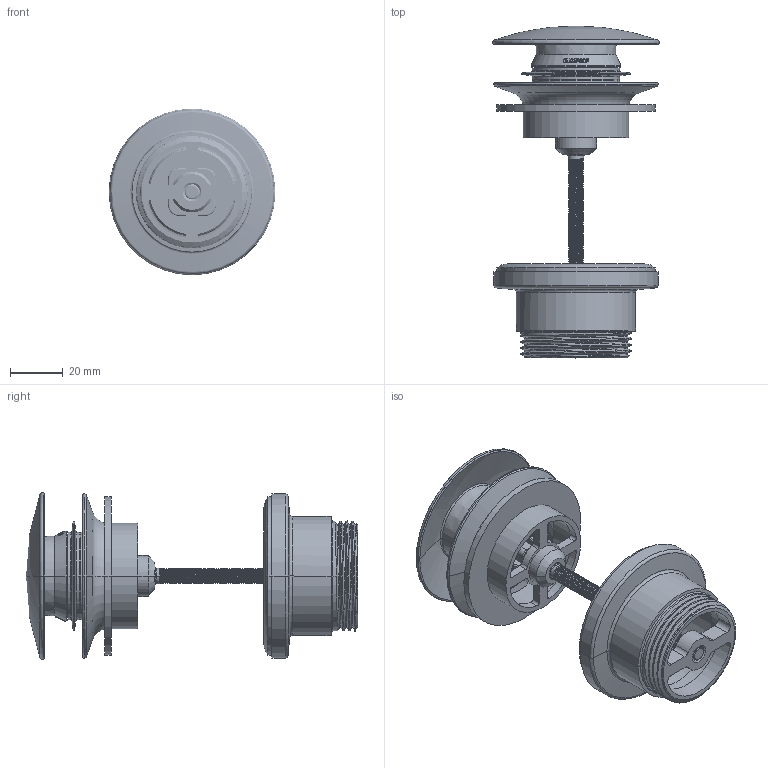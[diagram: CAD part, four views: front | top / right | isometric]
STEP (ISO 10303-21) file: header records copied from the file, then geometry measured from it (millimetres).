
FILE_DESCRIPTION((''),'2;1');
FILE_NAME('92686_ASM','2024-02-15T14:33:34',('carloff'),(''),'CREO PARAMETRIC BY PTC INC, 2022014','CREO PARAMETRIC BY PTC INC, 2022014','');
FILE_SCHEMA(('CONFIG_CONTROL_DESIGN'));
Length unit declared in the file: millimetre
Products named in the file (10): 92686_1_AF0; A536A80218_AF1; 92686_3_AF0; D496D40256_AF0; A496E10255_AF0; 92686_6_AF0; A757D40143_AF0; 92686_8_AF0; 92686_9; 92686_ASM
Assembly tree (9 placements, depth 2):
  92686_ASM
    92686_1_AF0
    A536A80218_AF1
    92686_3_AF0
    D496D40256_AF0
    A496E10255_AF0
    92686_6_AF0
    A757D40143_AF0
    92686_8_AF0
    92686_9
Bounding box: 63 x 125.4 x 62.99 mm (x, y, z)
Volume: 66463.6 mm3; surface area: 55435.1 mm2
Topology: 9 solids, 9 shells, 1154 faces, 3101 edges, 2002 vertices
Faces by surface type: cylinder 467, plane 213, bspline 162, torus 118, extrusion 102, cone 86, sphere 6
Entity records: 73585 total; most frequent: CARTESIAN_POINT 46564, ORIENTED_EDGE 6190, DIRECTION 4727, EDGE_CURVE 3095, VERTEX_POINT 2002, AXIS2_PLACEMENT_3D 1816, B_SPLINE_CURVE_WITH_KNOTS 1297, EDGE_LOOP 1219
